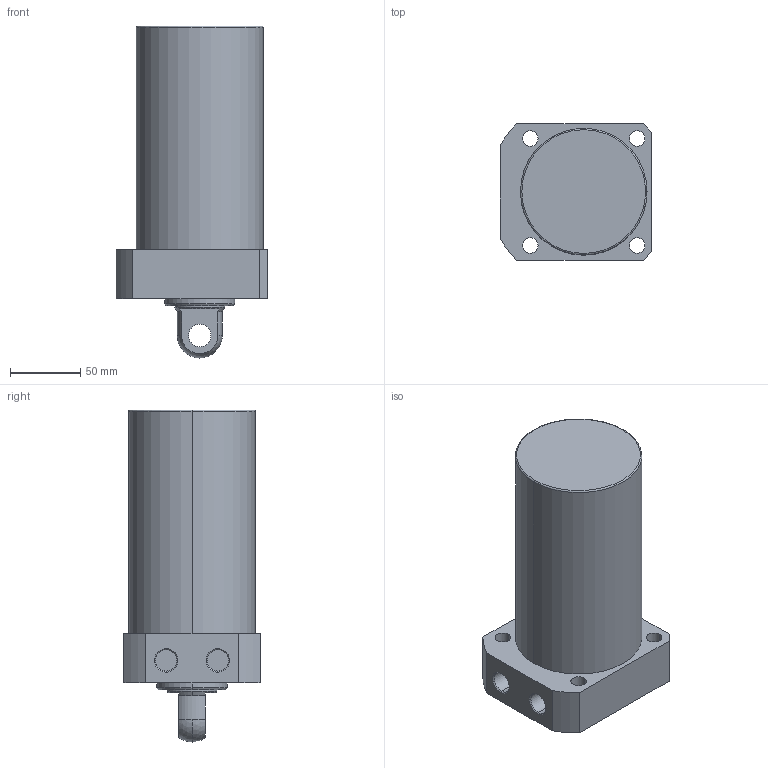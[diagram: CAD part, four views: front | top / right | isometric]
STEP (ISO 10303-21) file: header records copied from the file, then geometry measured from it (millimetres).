
FILE_DESCRIPTION (( 'STEP AP203' ), '1' );
FILE_NAME ('CLLR-090CP-115.STEP', '2019-12-18T06:56:07', ( '' ), ( '' ), 'SwSTEP 2.0', 'SolidWorks 2015', '' );
FILE_SCHEMA (( 'CONFIG_CONTROL_DESIGN' ));
Length unit declared in the file: millimetre
Products named in the file (1): CLLR-090CP-115
Bounding box: 108 x 97 x 236 mm (x, y, z)
Volume: 1375684.7 mm3; surface area: 89021.9 mm2
Topology: 1 solids, 1 shells, 59 faces, 139 edges, 89 vertices
Faces by surface type: cylinder 29, plane 18, cone 8, sphere 2, torus 2
Entity records: 1822 total; most frequent: DIRECTION 331, CARTESIAN_POINT 300, ORIENTED_EDGE 278, EDGE_CURVE 139, AXIS2_PLACEMENT_3D 136, VERTEX_POINT 89, CIRCLE 76, EDGE_LOOP 76
